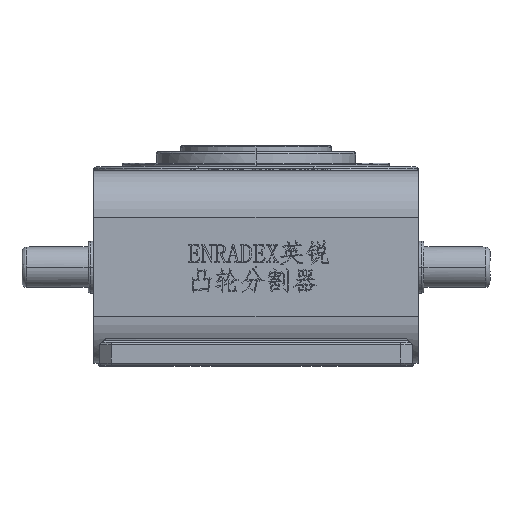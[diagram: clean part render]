
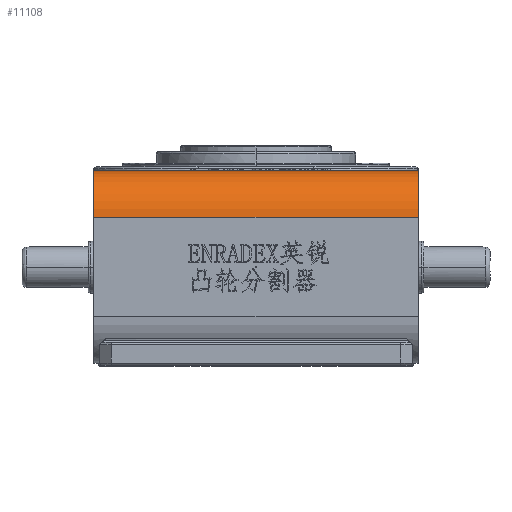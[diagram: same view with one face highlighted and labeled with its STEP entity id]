
A CAD part, top view. The second image highlights one B-rep face of the part: STEP entity #11108.
In plain terms, the highlighted cylindrical face has radius 40 mm (diameter 80 mm), a partial arc.
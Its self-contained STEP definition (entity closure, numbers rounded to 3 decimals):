
#2771 = EDGE_CURVE ( 'NONE', #3062, #65473, #119357, .T. ) ;
#3062 = VERTEX_POINT ( 'NONE', #128475 ) ;
#10797 = EDGE_LOOP ( 'NONE', ( #161282, #97501, #13407, #46871 ) ) ;
#11108 = ADVANCED_FACE ( 'NONE', ( #173995 ), #169846, .T. ) ;
#13407 = ORIENTED_EDGE ( 'NONE', *, *, #117378, .T. ) ;
#13693 = CIRCLE ( 'NONE', #59164, 40. ) ;
#14031 = AXIS2_PLACEMENT_3D ( 'NONE', #31024, #124923, #44520 ) ;
#14757 = VECTOR ( 'NONE', #27205, 1000. ) ;
#27205 = DIRECTION ( 'NONE',  ( 1., 0., 0. ) ) ;
#27576 = VECTOR ( 'NONE', #38157, 1000. ) ;
#31024 = CARTESIAN_POINT ( 'NONE',  ( 140., 128., 199. ) ) ;
#31814 = LINE ( 'NONE', #132053, #27576 ) ;
#34688 = CARTESIAN_POINT ( 'NONE',  ( -140., 128., 199. ) ) ;
#38157 = DIRECTION ( 'NONE',  ( 1., 0., 0. ) ) ;
#40700 = CARTESIAN_POINT ( 'NONE',  ( -140., 168., 199. ) ) ;
#44520 = DIRECTION ( 'NONE',  ( 0., 0., -1. ) ) ;
#46871 = ORIENTED_EDGE ( 'NONE', *, *, #2771, .T. ) ;
#53796 = EDGE_CURVE ( 'NONE', #149716, #65473, #121865, .T. ) ;
#59164 = AXIS2_PLACEMENT_3D ( 'NONE', #141813, #61353, #155326 ) ;
#61353 = DIRECTION ( 'NONE',  ( -1., 0., 0. ) ) ;
#65473 = VERTEX_POINT ( 'NONE', #120255 ) ;
#78497 = AXIS2_PLACEMENT_3D ( 'NONE', #34688, #155637, #101638 ) ;
#80341 = EDGE_CURVE ( 'NONE', #84919, #149716, #13693, .T. ) ;
#84919 = VERTEX_POINT ( 'NONE', #124972 ) ;
#97501 = ORIENTED_EDGE ( 'NONE', *, *, #80341, .F. ) ;
#101638 = DIRECTION ( 'NONE',  ( 0., 0., -1. ) ) ;
#106401 = CARTESIAN_POINT ( 'NONE',  ( -140., 168., 199. ) ) ;
#117378 = EDGE_CURVE ( 'NONE', #84919, #3062, #31814, .T. ) ;
#119357 = CIRCLE ( 'NONE', #14031, 40. ) ;
#120255 = CARTESIAN_POINT ( 'NONE',  ( 140., 168., 199. ) ) ;
#121865 = LINE ( 'NONE', #40700, #14757 ) ;
#124923 = DIRECTION ( 'NONE',  ( -1., 0., 0. ) ) ;
#124972 = CARTESIAN_POINT ( 'NONE',  ( -140., 128., 239. ) ) ;
#128475 = CARTESIAN_POINT ( 'NONE',  ( 140., 128., 239. ) ) ;
#132053 = CARTESIAN_POINT ( 'NONE',  ( -140., 128., 239. ) ) ;
#141813 = CARTESIAN_POINT ( 'NONE',  ( -140., 128., 199. ) ) ;
#149716 = VERTEX_POINT ( 'NONE', #106401 ) ;
#155326 = DIRECTION ( 'NONE',  ( 0., 0., -1. ) ) ;
#155637 = DIRECTION ( 'NONE',  ( 1., 0., 0. ) ) ;
#161282 = ORIENTED_EDGE ( 'NONE', *, *, #53796, .F. ) ;
#169846 = CYLINDRICAL_SURFACE ( 'NONE', #78497, 40. ) ;
#173995 = FACE_OUTER_BOUND ( 'NONE', #10797, .T. ) ;
